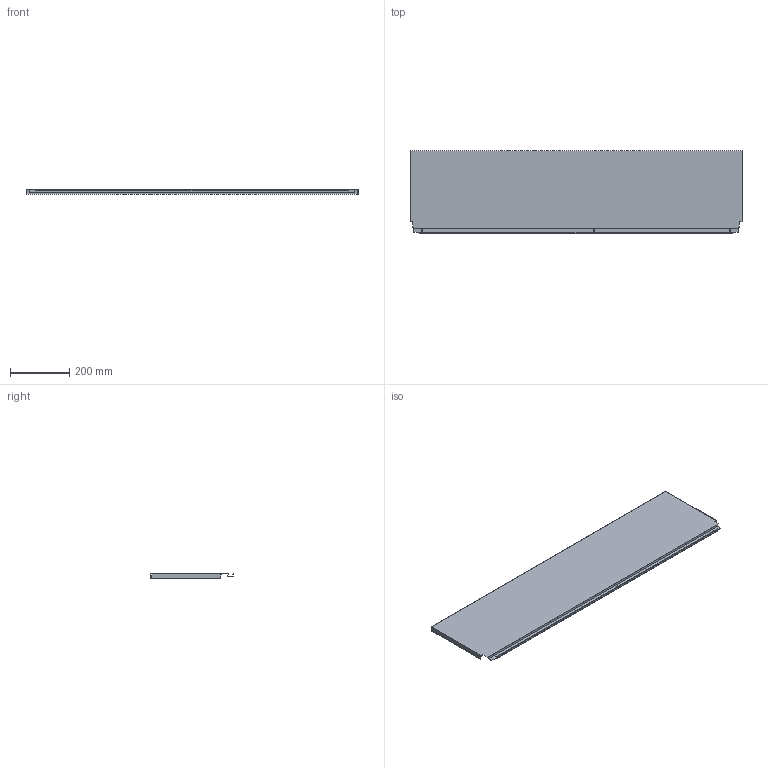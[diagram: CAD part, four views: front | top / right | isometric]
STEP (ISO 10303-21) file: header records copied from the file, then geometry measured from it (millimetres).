
FILE_DESCRIPTION (( 'STEP AP214' ), '1' );
FILE_NAME ('_DWD_XP Stahlrückwand_H278_KAB1200_S16.step', '2010-07-08T13:03:51', ( 'grass' ), ( '' ), 'SwSTEP 2.0', 'SolidWorks 2010', '' );
FILE_SCHEMA (( 'AUTOMOTIVE_DESIGN' ));
Length unit declared in the file: millimetre
Products named in the file (1): _DWD_XP Stahlrückwand_H278_KAB1200_S16
Bounding box: 1117 x 278.57 x 16 mm (x, y, z)
Volume: 308332.7 mm3; surface area: 703244.2 mm2
Topology: 1 solids, 1 shells, 46 faces, 132 edges, 88 vertices
Faces by surface type: plane 40, cylinder 6
Entity records: 1534 total; most frequent: CARTESIAN_POINT 267, ORIENTED_EDGE 264, DIRECTION 238, EDGE_CURVE 132, VECTOR 120, LINE 120, VERTEX_POINT 88, AXIS2_PLACEMENT_3D 59
